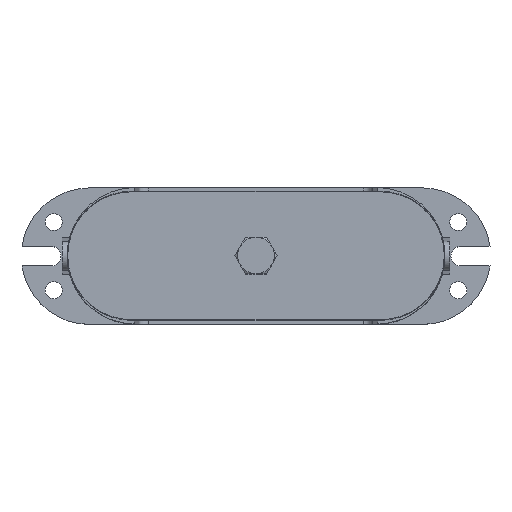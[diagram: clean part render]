
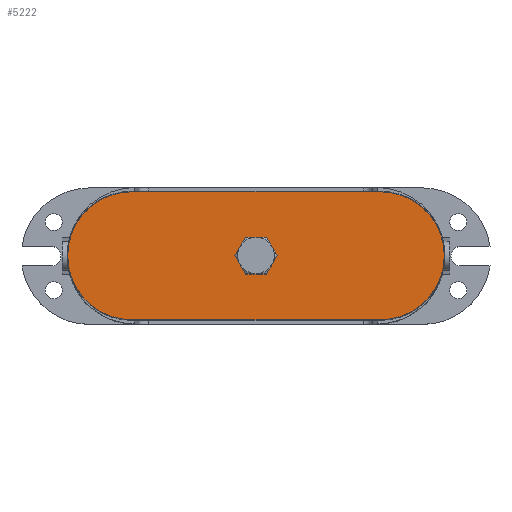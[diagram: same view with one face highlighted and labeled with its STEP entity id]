
A CAD part, top view. The second image highlights one B-rep face of the part: STEP entity #5222.
In plain terms, the highlighted planar face has unit normal (0, 0, 1).
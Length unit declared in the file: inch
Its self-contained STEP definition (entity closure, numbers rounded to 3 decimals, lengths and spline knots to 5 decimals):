
#71=FACE_BOUND('',#853,.T.);
#220=CIRCLE('',#5434,0.46875);
#221=CIRCLE('',#5436,0.46875);
#222=CIRCLE('',#5438,0.46875);
#223=CIRCLE('',#5440,0.46875);
#224=CIRCLE('',#5442,0.46875);
#225=CIRCLE('',#5444,0.46875);
#265=CIRCLE('',#5514,1.64063);
#267=CIRCLE('',#5518,1.64063);
#552=FACE_OUTER_BOUND('',#852,.T.);
#852=EDGE_LOOP('',(#3878,#3879,#3880,#3881));
#853=EDGE_LOOP('',(#3882,#3883,#3884,#3885,#3886,#3887));
#1150=LINE('',#19088,#1524);
#1154=LINE('',#19099,#1528);
#1524=VECTOR('',#6190,6.375);
#1528=VECTOR('',#6202,6.375);
#2065=VERTEX_POINT('',#18788);
#2071=VERTEX_POINT('',#18809);
#2075=VERTEX_POINT('',#18827);
#2078=VERTEX_POINT('',#18846);
#2082=VERTEX_POINT('',#18864);
#2085=VERTEX_POINT('',#18881);
#2140=VERTEX_POINT('',#19078);
#2141=VERTEX_POINT('',#19079);
#2144=VERTEX_POINT('',#19087);
#2146=VERTEX_POINT('',#19093);
#2637=EDGE_CURVE('',#2075,#2085,#220,.T.);
#2638=EDGE_CURVE('',#2071,#2075,#221,.T.);
#2639=EDGE_CURVE('',#2085,#2082,#222,.T.);
#2640=EDGE_CURVE('',#2082,#2078,#223,.T.);
#2641=EDGE_CURVE('',#2065,#2071,#224,.T.);
#2642=EDGE_CURVE('',#2078,#2065,#225,.T.);
#2716=EDGE_CURVE('',#2140,#2141,#265,.T.);
#2720=EDGE_CURVE('',#2144,#2140,#1150,.T.);
#2723=EDGE_CURVE('',#2146,#2144,#267,.T.);
#2726=EDGE_CURVE('',#2141,#2146,#1154,.T.);
#3878=ORIENTED_EDGE('',*,*,#2726,.F.);
#3879=ORIENTED_EDGE('',*,*,#2716,.F.);
#3880=ORIENTED_EDGE('',*,*,#2720,.F.);
#3881=ORIENTED_EDGE('',*,*,#2723,.F.);
#3882=ORIENTED_EDGE('',*,*,#2642,.T.);
#3883=ORIENTED_EDGE('',*,*,#2641,.T.);
#3884=ORIENTED_EDGE('',*,*,#2638,.T.);
#3885=ORIENTED_EDGE('',*,*,#2637,.T.);
#3886=ORIENTED_EDGE('',*,*,#2639,.T.);
#3887=ORIENTED_EDGE('',*,*,#2640,.T.);
#4726=PLANE('',#5582);
#5222=ADVANCED_FACE('',(#552,#71),#4726,.T.);
#5434=AXIS2_PLACEMENT_3D('',#18889,#5989,#5990);
#5436=AXIS2_PLACEMENT_3D('',#18891,#5993,#5994);
#5438=AXIS2_PLACEMENT_3D('',#18893,#5997,#5998);
#5440=AXIS2_PLACEMENT_3D('',#18895,#6001,#6002);
#5442=AXIS2_PLACEMENT_3D('',#18897,#6005,#6006);
#5444=AXIS2_PLACEMENT_3D('',#18899,#6009,#6010);
#5514=AXIS2_PLACEMENT_3D('',#19080,#6182,#6183);
#5518=AXIS2_PLACEMENT_3D('',#19094,#6195,#6196);
#5582=AXIS2_PLACEMENT_3D('',#19615,#6379,#6380);
#5989=DIRECTION('center_axis',(0.,0.,
-1.));
#5990=DIRECTION('ref_axis',(1.,0.,0.));
#5993=DIRECTION('center_axis',(0.,0.,
-1.));
#5994=DIRECTION('ref_axis',(1.,0.,0.));
#5997=DIRECTION('center_axis',(0.,0.,
-1.));
#5998=DIRECTION('ref_axis',(1.,0.,0.));
#6001=DIRECTION('center_axis',(0.,0.,
-1.));
#6002=DIRECTION('ref_axis',(1.,0.,0.));
#6005=DIRECTION('center_axis',(0.,0.,
-1.));
#6006=DIRECTION('ref_axis',(1.,0.,0.));
#6009=DIRECTION('center_axis',(0.,0.,
-1.));
#6010=DIRECTION('ref_axis',(1.,0.,0.));
#6182=DIRECTION('center_axis',(0.,0.,
-1.));
#6183=DIRECTION('ref_axis',(0.,-1.,0.));
#6190=DIRECTION('',(1.,0.,0.));
#6195=DIRECTION('center_axis',(0.,0.,
-1.));
#6196=DIRECTION('ref_axis',(0.,1.,0.));
#6202=DIRECTION('',(-1.,0.,0.));
#6379=DIRECTION('center_axis',(0.,0.,
1.));
#6380=DIRECTION('ref_axis',(-1.,0.,0.));
#18788=CARTESIAN_POINT('',(-0.40595,0.23438,6.875));
#18809=CARTESIAN_POINT('',(0.,0.46875,6.875));
#18827=CARTESIAN_POINT('',(0.40595,0.23438,6.875));
#18846=CARTESIAN_POINT('',(-0.40595,-0.23438,6.875));
#18864=CARTESIAN_POINT('',(0.,-0.46875,6.875));
#18881=CARTESIAN_POINT('',(0.40595,-0.23438,6.875));
#18889=CARTESIAN_POINT('Origin',(0.,0.,
6.875));
#18891=CARTESIAN_POINT('Origin',(0.,0.,
6.875));
#18893=CARTESIAN_POINT('Origin',(0.,0.,
6.875));
#18895=CARTESIAN_POINT('Origin',(0.,0.,
6.875));
#18897=CARTESIAN_POINT('Origin',(0.,0.,
6.875));
#18899=CARTESIAN_POINT('Origin',(0.,0.,
6.875));
#19078=CARTESIAN_POINT('',(3.1875,1.64063,6.875));
#19079=CARTESIAN_POINT('',(3.1875,-1.64063,6.875));
#19080=CARTESIAN_POINT('Origin',(3.1875,0.,6.875));
#19087=CARTESIAN_POINT('',(-3.1875,1.64063,6.875));
#19088=CARTESIAN_POINT('',(3.1875,1.64063,6.875));
#19093=CARTESIAN_POINT('',(-3.1875,-1.64063,6.875));
#19094=CARTESIAN_POINT('Origin',(-3.1875,0.,6.875));
#19099=CARTESIAN_POINT('',(-3.1875,-1.64063,6.875));
#19615=CARTESIAN_POINT('Origin',(0.,0.,
6.875));
